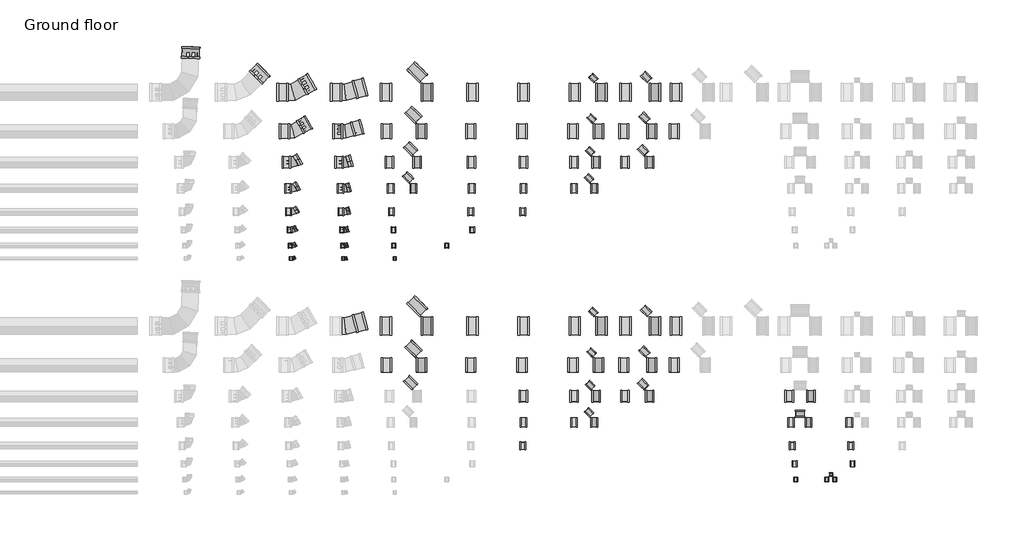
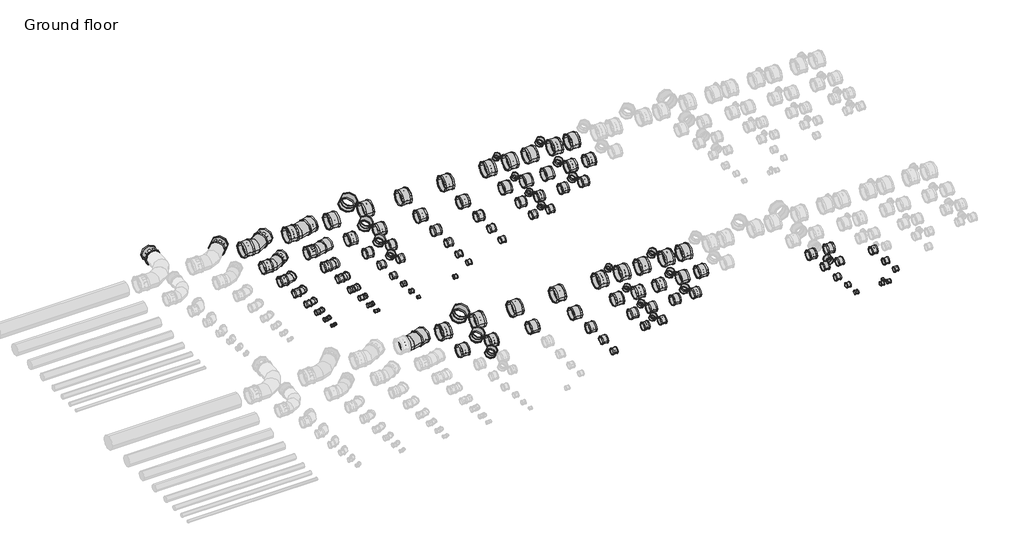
# One storey, part 3 of 10: 142 pipe fittings.
"""IFC4 building model written with IfcOpenShell, lengths in millimetres."""

from ifc_helpers import new_model, si_unit, origin, place, context, project, spatial, transform, mapped, element, save
from components import pipe_fitting_e5a81f0f, pipe_fitting_366f8f33, pipe_fitting_0ebad727, pipe_fitting_3dc9645f, pipe_fitting_b5a722ff, pipe_fitting_a818c1c7, pipe_fitting_9bc79c39, pipe_fitting_2c23b5e5, blue_6a097fc3, blue_8c50e030, blue_66bd3a30, blue_cd4b49a2, blue_58710f0b, blue_3e8714aa, blue_1fd363ef, blue_119fea42, blue_49925300, blue_168d1bee, blue_045a93d3, blue_ad261573, blue_5f6e9122, blue_fd0dfc69, orange_f85f7f18, blue_b37b0867, orange_b2441087

model = new_model("IFC4")

# Units and contexts
model_context = context("Model", 3, world=origin())
ifc_project = project(units=[si_unit("LENGTHUNIT", "METRE", prefix="MILLI")], contexts=[model_context])

# Site, building, storey
site = spatial("IfcSite", under=ifc_project)
building = spatial("IfcBuilding", under=site)
storey = spatial("IfcBuildingStorey", under=building, Name="Ground floor", Elevation=0.0)

# Pipe fittings
placement = place(None, origin())
pipe_fitting_shape = pipe_fitting_e5a81f0f(model_context)
element("IfcPipeFitting", 1, ObjectType="AWADUKT PP Union DSM : Orange No PID", at=placement, inside=storey, context=model_context, shape_type="MappedRepresentation", body=[
    mapped(pipe_fitting_shape, transform((16796.0, 11700.0, 0.0), x_axis=(1.0, 0.0, 0.0), y_axis=(0.0, 1.0, 0.0), z_axis=(0.0, 0.0, 1.0))),
])
element("IfcPipeFitting", 2, ObjectType="AWADUKT PP Union DSM : Orange No PID", at=placement, inside=storey, context=model_context, shape_type="MappedRepresentation", body=[
    mapped(pipe_fitting_shape, transform((18820.0, 11700.0, 0.0), x_axis=(1.0, 0.0, 0.0), y_axis=(0.0, 1.0, 0.0), z_axis=(0.0, 0.0, 1.0))),
])
element("IfcPipeFitting", 3, ObjectType="AWADUKT PP Union DSM : Orange No PID", at=placement, inside=storey, context=model_context, shape_type="MappedRepresentation", body=[
    mapped(pipe_fitting_shape, transform((20753.0, 11700.0, 0.0), x_axis=(1.0, 0.0, 0.0), y_axis=(0.0, 1.0, 0.0), z_axis=(0.0, 0.0, 1.0))),
])
element("IfcPipeFitting", 4, ObjectType="AWADUKT PP Union DSM : Orange No PID", at=placement, inside=storey, context=model_context, shape_type="MappedRepresentation", body=[
    mapped(pipe_fitting_shape, transform((21629.0, 11700.0, 0.0), x_axis=(-1.0, 0.0, 0.0), y_axis=(0.0, -1.0, 0.0), z_axis=(0.0, 0.0, 1.0))),
])
element("IfcPipeFitting", 5, ObjectType="AWADUKT PP Union DSM : Orange No PID", at=placement, inside=storey, context=model_context, shape_type="MappedRepresentation", body=[
    mapped(pipe_fitting_shape, transform((21420.7285348, 12120.7285348, 0.0), x_axis=(0.7071067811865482, 0.7071067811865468, 0.0), y_axis=(-0.7071067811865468, 0.7071067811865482, 0.0), z_axis=(0.0, 0.0, 1.0))),
])
element("IfcPipeFitting", 6, ObjectType="AWADUKT PP Union DSM : Orange No PID", at=placement, inside=storey, context=model_context, shape_type="MappedRepresentation", body=[
    mapped(pipe_fitting_shape, transform((23863.0, 11700.0, 0.0), x_axis=(1.0, 0.0, 0.0), y_axis=(0.0, 1.0, 0.0), z_axis=(0.0, 0.0, 1.0))),
])
element("IfcPipeFitting", 7, ObjectType="AWADUKT PP Union DSM : Orange No PID", at=placement, inside=storey, context=model_context, shape_type="MappedRepresentation", body=[
    mapped(pipe_fitting_shape, transform((25859.0, 11700.0, 0.0), x_axis=(1.0, 0.0, 0.0), y_axis=(0.0, 1.0, 0.0), z_axis=(0.0, 0.0, 1.0))),
])
element("IfcPipeFitting", 8, ObjectType="AWADUKT PP Union DSM : Orange No PID", at=placement, inside=storey, context=model_context, shape_type="MappedRepresentation", body=[
    mapped(pipe_fitting_shape, transform((27799.0, 11700.0, 0.0), x_axis=(1.0, 0.0, 0.0), y_axis=(0.0, 1.0, 0.0), z_axis=(0.0, 0.0, 1.0))),
])
element("IfcPipeFitting", 9, ObjectType="AWADUKT PP Union DSM : Orange No PID", at=placement, inside=storey, context=model_context, shape_type="MappedRepresentation", body=[
    mapped(pipe_fitting_shape, transform((28582.0, 11700.0, 0.0), x_axis=(-1.0, 0.0, 0.0), y_axis=(0.0, -1.0, 0.0), z_axis=(0.0, 0.0, 1.0))),
])
element("IfcPipeFitting", 10, ObjectType="AWADUKT PP Union DSM : Orange No PID", at=placement, inside=storey, context=model_context, shape_type="MappedRepresentation", body=[
    mapped(pipe_fitting_shape, transform((30463.1549417, 13163.1549417, 0.0), x_axis=(0.7071067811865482, 0.7071067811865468, 0.0), y_axis=(-0.7071067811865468, 0.7071067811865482, 0.0), z_axis=(0.0, 0.0, 1.0))),
])
element("IfcPipeFitting", 11, ObjectType="AWADUKT PP Union DSM : Orange No PID", at=placement, inside=storey, context=model_context, shape_type="MappedRepresentation", body=[
    mapped(pipe_fitting_shape, transform((30516.1879503, 14416.1879503, 0.0), x_axis=(0.7071067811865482, 0.7071067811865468, 0.0), y_axis=(-0.7071067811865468, 0.7071067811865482, 0.0), z_axis=(0.0, 0.0, 1.0))),
])
element("IfcPipeFitting", 12, ObjectType="AWADUKT PP Union DSM : Orange No PID", at=placement, inside=storey, context=model_context, shape_type="MappedRepresentation", body=[
    mapped(pipe_fitting_shape, transform((30579.8275606, 15979.8275606, 0.0), x_axis=(0.7071067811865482, 0.7071067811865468, 0.0), y_axis=(-0.7071067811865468, 0.7071067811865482, 0.0), z_axis=(0.0, 0.0, 1.0))),
])
pipe_fitting_2_shape = pipe_fitting_366f8f33(model_context)
element("IfcPipeFitting", 13, ObjectType="AWADUKT PP Union DSM : Blue No PID", at=placement, inside=storey, context=model_context, shape_type="MappedRepresentation", body=[
    mapped(pipe_fitting_2_shape, transform((19565.0666084, 6551.4091414, 0.0), x_axis=(0.9659258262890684, 0.2588190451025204, 0.0), y_axis=(-0.2588190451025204, 0.9659258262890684, 0.0), z_axis=(0.0, 0.0, 1.0))),
])
element("IfcPipeFitting", 14, ObjectType="AWADUKT PP Union DSM : Blue No PID", at=placement, inside=storey, context=model_context, shape_type="MappedRepresentation", body=[
    mapped(pipe_fitting_2_shape, transform((20559.0, 6400.0, 0.0), x_axis=(1.0, 0.0, 0.0), y_axis=(0.0, 1.0, 0.0), z_axis=(0.0, 0.0, 1.0))),
])
element("IfcPipeFitting", 15, ObjectType="AWADUKT PP Union DSM : Blue No PID", at=placement, inside=storey, context=model_context, shape_type="MappedRepresentation", body=[
    mapped(pipe_fitting_2_shape, transform((22155.0, 6400.0, 0.0), x_axis=(-1.0, 0.0, 0.0), y_axis=(0.0, -1.0, 0.0), z_axis=(0.0, 0.0, 1.0))),
])
element("IfcPipeFitting", 16, ObjectType="AWADUKT PP Union DSM : Blue No PID", at=placement, inside=storey, context=model_context, shape_type="MappedRepresentation", body=[
    mapped(pipe_fitting_2_shape, transform((21767.2108576, 7167.2108576, 0.0), x_axis=(0.7071067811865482, 0.7071067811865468, 0.0), y_axis=(-0.7071067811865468, 0.7071067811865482, 0.0), z_axis=(0.0, 0.0, 1.0))),
])
element("IfcPipeFitting", 17, ObjectType="AWADUKT PP Union DSM : Blue No PID", at=placement, inside=storey, context=model_context, shape_type="MappedRepresentation", body=[
    mapped(pipe_fitting_2_shape, transform((23891.0, 6400.0, 0.0), x_axis=(1.0, 0.0, 0.0), y_axis=(0.0, 1.0, 0.0), z_axis=(0.0, 0.0, 1.0))),
])
element("IfcPipeFitting", 18, ObjectType="AWADUKT PP Union DSM : Blue No PID", at=placement, inside=storey, context=model_context, shape_type="MappedRepresentation", body=[
    mapped(pipe_fitting_2_shape, transform((25863.0, 6400.0, 0.0), x_axis=(1.0, 0.0, 0.0), y_axis=(0.0, 1.0, 0.0), z_axis=(0.0, 0.0, 1.0))),
])
element("IfcPipeFitting", 19, ObjectType="AWADUKT PP Union DSM : Blue No PID", at=placement, inside=storey, context=model_context, shape_type="MappedRepresentation", body=[
    mapped(pipe_fitting_2_shape, transform((27827.0, 6400.0, 0.0), x_axis=(1.0, 0.0, 0.0), y_axis=(0.0, 1.0, 0.0), z_axis=(0.0, 0.0, 1.0))),
])
element("IfcPipeFitting", 20, ObjectType="AWADUKT PP Union DSM : Blue No PID", at=placement, inside=storey, context=model_context, shape_type="MappedRepresentation", body=[
    mapped(pipe_fitting_2_shape, transform((28860.0, 6400.0, 0.0), x_axis=(-1.0, 0.0, 0.0), y_axis=(0.0, -1.0, 0.0), z_axis=(0.0, 0.0, 1.0))),
])
element("IfcPipeFitting", 21, ObjectType="AWADUKT PP Union DSM : Blue No PID", at=placement, inside=storey, context=model_context, shape_type="MappedRepresentation", body=[
    mapped(pipe_fitting_2_shape, transform((29781.0, 6400.0, 0.0), x_axis=(1.0, 0.0, 0.0), y_axis=(0.0, 1.0, 0.0), z_axis=(0.0, 0.0, 1.0))),
])
element("IfcPipeFitting", 22, ObjectType="AWADUKT PP Union DSM : Blue No PID", at=placement, inside=storey, context=model_context, shape_type="MappedRepresentation", body=[
    mapped(pipe_fitting_2_shape, transform((30921.0, 6400.0, 0.0), x_axis=(-1.0, 0.0, 0.0), y_axis=(0.0, -1.0, 0.0), z_axis=(0.0, 0.0, 1.0))),
])
element("IfcPipeFitting", 23, ObjectType="AWADUKT PP Union DSM : Blue No PID", at=placement, inside=storey, context=model_context, shape_type="MappedRepresentation", body=[
    mapped(pipe_fitting_2_shape, transform((31721.0, 6400.0, 0.0), x_axis=(1.0, 0.0, 0.0), y_axis=(0.0, 1.0, 0.0), z_axis=(0.0, 0.0, 1.0))),
])
pipe_fitting_3_shape = pipe_fitting_0ebad727(model_context)
element("IfcPipeFitting", 24, ObjectType="AWADUKT PP Union DSM : Blue No PID", at=placement, inside=storey, context=model_context, shape_type="MappedRepresentation", body=[
    mapped(pipe_fitting_3_shape, transform((37700.0, 690.0, 0.0), x_axis=(0.0, 1.0, 0.0), y_axis=(-1.0, 0.0, 0.0), z_axis=(0.0, 0.0, 1.0))),
])
pipe_fitting_4_shape = pipe_fitting_3dc9645f(model_context)
element("IfcPipeFitting", 25, ObjectType="AWADUKT PP Union DSM : Blue No PID", at=placement, inside=storey, context=model_context, shape_type="MappedRepresentation", body=[
    mapped(pipe_fitting_4_shape, transform((36326.0, 500.0, 0.0), x_axis=(1.0, 0.0, 0.0), y_axis=(0.0, 1.0, 0.0), z_axis=(0.0, 0.0, 1.0))),
])
element("IfcPipeFitting", 26, ObjectType="AWADUKT PP Union DSM : Blue No PID", at=placement, inside=storey, context=model_context, shape_type="MappedRepresentation", body=[
    mapped(pipe_fitting_4_shape, transform((37524.0, 500.0, 0.0), x_axis=(1.0, 0.0, 0.0), y_axis=(0.0, 1.0, 0.0), z_axis=(0.0, 0.0, 1.0))),
])
element("IfcPipeFitting", 27, ObjectType="AWADUKT PP Union DSM : Blue No PID", at=placement, inside=storey, context=model_context, shape_type="MappedRepresentation", body=[
    mapped(pipe_fitting_4_shape, transform((37839.0, 500.0, 0.0), x_axis=(-1.0, 0.0, 0.0), y_axis=(0.0, -1.0, 0.0), z_axis=(0.0, 0.0, 1.0))),
])
pipe_fitting_5_shape = pipe_fitting_b5a722ff(model_context)
element("IfcPipeFitting", 28, ObjectType="AWADUKT PP Union DSM : Blue No PID", at=placement, inside=storey, context=model_context, shape_type="MappedRepresentation", body=[
    mapped(pipe_fitting_5_shape, transform((36294.1, 1100.0, 0.0), x_axis=(1.0, 0.0, 0.0), y_axis=(0.0, 1.0, 0.0), z_axis=(0.0, 0.0, 1.0))),
])
element("IfcPipeFitting", 29, ObjectType="AWADUKT PP Union DSM : Blue No PID", at=placement, inside=storey, context=model_context, shape_type="MappedRepresentation", body=[
    mapped(pipe_fitting_5_shape, transform((38516.0, 1100.0, 0.0), x_axis=(1.0, 0.0, 0.0), y_axis=(0.0, 1.0, 0.0), z_axis=(0.0, 0.0, 1.0))),
])
pipe_fitting_6_shape = pipe_fitting_a818c1c7(model_context)
element("IfcPipeFitting", 30, ObjectType="AWADUKT PP Union DSM : Blue No PID", at=placement, inside=storey, context=model_context, shape_type="MappedRepresentation", body=[
    mapped(pipe_fitting_6_shape, transform((25832.0, 1800.0, 0.0), x_axis=(1.0, 0.0, 0.0), y_axis=(0.0, 1.0, 0.0), z_axis=(0.0, 0.0, 1.0))),
])
element("IfcPipeFitting", 31, ObjectType="AWADUKT PP Union DSM : Blue No PID", at=placement, inside=storey, context=model_context, shape_type="MappedRepresentation", body=[
    mapped(pipe_fitting_6_shape, transform((28381.8376618, 3081.8376618, 0.0), x_axis=(0.7071067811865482, 0.7071067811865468, 0.0), y_axis=(-0.7071067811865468, 0.7071067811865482, 0.0), z_axis=(0.0, 0.0, 1.0))),
])
element("IfcPipeFitting", 32, ObjectType="AWADUKT PP Union DSM : Blue No PID", at=placement, inside=storey, context=model_context, shape_type="MappedRepresentation", body=[
    mapped(pipe_fitting_6_shape, transform((28424.2640687, 4124.2640687, 0.0), x_axis=(0.7071067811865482, 0.7071067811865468, 0.0), y_axis=(-0.7071067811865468, 0.7071067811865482, 0.0), z_axis=(0.0, 0.0, 1.0))),
])
element("IfcPipeFitting", 33, ObjectType="AWADUKT PP Union DSM : Blue No PID", at=placement, inside=storey, context=model_context, shape_type="MappedRepresentation", body=[
    mapped(pipe_fitting_6_shape, transform((28480.8326112, 5380.8326112, 0.0), x_axis=(0.7071067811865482, 0.7071067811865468, 0.0), y_axis=(-0.7071067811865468, 0.7071067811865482, 0.0), z_axis=(0.0, 0.0, 1.0))),
])
element("IfcPipeFitting", 34, ObjectType="AWADUKT PP Union DSM : Blue No PID", at=placement, inside=storey, context=model_context, shape_type="MappedRepresentation", body=[
    mapped(pipe_fitting_6_shape, transform((28544.4722215, 6944.4722215, 0.0), x_axis=(0.7071067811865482, 0.7071067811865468, 0.0), y_axis=(-0.7071067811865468, 0.7071067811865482, 0.0), z_axis=(0.0, 0.0, 1.0))),
])
element("IfcPipeFitting", 35, ObjectType="AWADUKT PP Union DSM : Blue No PID", at=placement, inside=storey, context=model_context, shape_type="MappedRepresentation", body=[
    mapped(pipe_fitting_6_shape, transform((36204.0, 1800.0, 0.0), x_axis=(1.0, 0.0, 0.0), y_axis=(0.0, 1.0, 0.0), z_axis=(0.0, 0.0, 1.0))),
])
element("IfcPipeFitting", 36, ObjectType="AWADUKT PP Union DSM : Blue No PID", at=placement, inside=storey, context=model_context, shape_type="MappedRepresentation", body=[
    mapped(pipe_fitting_6_shape, transform((38449.0, 1800.0, 0.0), x_axis=(1.0, 0.0, 0.0), y_axis=(0.0, 1.0, 0.0), z_axis=(0.0, 0.0, 1.0))),
])
element("IfcPipeFitting", 37, ObjectType="AWADUKT PP Union DSM : Blue No PID", at=placement, inside=storey, context=model_context, shape_type="MappedRepresentation", body=[
    mapped(pipe_fitting_shape, transform((25859.0, 2700.0, 0.0), x_axis=(1.0, 0.0, 0.0), y_axis=(0.0, 1.0, 0.0), z_axis=(0.0, 0.0, 1.0))),
])
element("IfcPipeFitting", 38, ObjectType="AWADUKT PP Union DSM : Blue No PID", at=placement, inside=storey, context=model_context, shape_type="MappedRepresentation", body=[
    mapped(pipe_fitting_shape, transform((27799.0, 2700.0, 0.0), x_axis=(1.0, 0.0, 0.0), y_axis=(0.0, 1.0, 0.0), z_axis=(0.0, 0.0, 1.0))),
])
element("IfcPipeFitting", 39, ObjectType="AWADUKT PP Union DSM : Blue No PID", at=placement, inside=storey, context=model_context, shape_type="MappedRepresentation", body=[
    mapped(pipe_fitting_shape, transform((28582.0, 2700.0, 0.0), x_axis=(-1.0, 0.0, 0.0), y_axis=(0.0, -1.0, 0.0), z_axis=(0.0, 0.0, 1.0))),
])
element("IfcPipeFitting", 40, ObjectType="AWADUKT PP Union DSM : Blue No PID", at=placement, inside=storey, context=model_context, shape_type="MappedRepresentation", body=[
    mapped(pipe_fitting_shape, transform((30463.1549417, 4163.1549417, 0.0), x_axis=(0.7071067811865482, 0.7071067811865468, 0.0), y_axis=(-0.7071067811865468, 0.7071067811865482, 0.0), z_axis=(0.0, 0.0, 1.0))),
])
element("IfcPipeFitting", 41, ObjectType="AWADUKT PP Union DSM : Blue No PID", at=placement, inside=storey, context=model_context, shape_type="MappedRepresentation", body=[
    mapped(pipe_fitting_shape, transform((30516.1879503, 5416.1879503, 0.0), x_axis=(0.7071067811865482, 0.7071067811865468, 0.0), y_axis=(-0.7071067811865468, 0.7071067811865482, 0.0), z_axis=(0.0, 0.0, 1.0))),
])
element("IfcPipeFitting", 42, ObjectType="AWADUKT PP Union DSM : Blue No PID", at=placement, inside=storey, context=model_context, shape_type="MappedRepresentation", body=[
    mapped(pipe_fitting_shape, transform((30579.8275606, 6979.8275606, 0.0), x_axis=(0.7071067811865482, 0.7071067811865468, 0.0), y_axis=(-0.7071067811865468, 0.7071067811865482, 0.0), z_axis=(0.0, 0.0, 1.0))),
])
element("IfcPipeFitting", 43, ObjectType="AWADUKT PP Union DSM : Blue No PID", at=placement, inside=storey, context=model_context, shape_type="MappedRepresentation", body=[
    mapped(pipe_fitting_shape, transform((36151.0, 2700.0, 0.0), x_axis=(1.0, 0.0, 0.0), y_axis=(0.0, 1.0, 0.0), z_axis=(0.0, 0.0, 1.0))),
])
element("IfcPipeFitting", 44, ObjectType="AWADUKT PP Union DSM : Blue No PID", at=placement, inside=storey, context=model_context, shape_type="MappedRepresentation", body=[
    mapped(pipe_fitting_shape, transform((38394.0, 2700.0, 0.0), x_axis=(1.0, 0.0, 0.0), y_axis=(0.0, 1.0, 0.0), z_axis=(0.0, 0.0, 1.0))),
])
element("IfcPipeFitting", 45, ObjectType="AWADUKT PP Union DSM : Blue No PID", at=placement, inside=storey, context=model_context, shape_type="MappedRepresentation", body=[
    mapped(pipe_fitting_shape, transform((36832.0, 2700.0, 0.0), x_axis=(-1.0, 0.0, 0.0), y_axis=(0.0, -1.0, 0.0), z_axis=(0.0, 0.0, 1.0))),
])
element("IfcPipeFitting", 46, ObjectType="AWADUKT PP Union DSM : Blue No PID", at=placement, inside=storey, context=model_context, shape_type="MappedRepresentation", body=[
    mapped(pipe_fitting_shape, transform((36500.0, 3025.0, 0.0), x_axis=(0.0, 1.0, 0.0), y_axis=(-1.0, 0.0, 0.0), z_axis=(0.0, 0.0, 1.0))),
])
pipe_fitting_7_shape = pipe_fitting_9bc79c39(model_context)
element("IfcPipeFitting", 47, ObjectType="AWADUKT PP Union DSM : Blue No PID", at=placement, inside=storey, context=model_context, shape_type="MappedRepresentation", body=[
    mapped(pipe_fitting_7_shape, transform((21519.7234842, 4219.7234842, 0.0), x_axis=(0.7071067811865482, 0.7071067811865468, 0.0), y_axis=(-0.7071067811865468, 0.7071067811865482, 0.0), z_axis=(0.0, 0.0, 1.0))),
])
element("IfcPipeFitting", 48, ObjectType="AWADUKT PP Union DSM : Blue No PID", at=placement, inside=storey, context=model_context, shape_type="MappedRepresentation", body=[
    mapped(pipe_fitting_7_shape, transform((25854.0, 3700.0, 0.0), x_axis=(1.0, 0.0, 0.0), y_axis=(0.0, 1.0, 0.0), z_axis=(0.0, 0.0, 1.0))),
])
element("IfcPipeFitting", 49, ObjectType="AWADUKT PP Union DSM : Blue No PID", at=placement, inside=storey, context=model_context, shape_type="MappedRepresentation", body=[
    mapped(pipe_fitting_7_shape, transform((27805.0, 3700.0, 0.0), x_axis=(1.0, 0.0, 0.0), y_axis=(0.0, 1.0, 0.0), z_axis=(0.0, 0.0, 1.0))),
])
element("IfcPipeFitting", 50, ObjectType="AWADUKT PP Union DSM : Blue No PID", at=placement, inside=storey, context=model_context, shape_type="MappedRepresentation", body=[
    mapped(pipe_fitting_7_shape, transform((28664.0, 3700.0, 0.0), x_axis=(-1.0, 0.0, 0.0), y_axis=(0.0, -1.0, 0.0), z_axis=(0.0, 0.0, 1.0))),
])
element("IfcPipeFitting", 51, ObjectType="AWADUKT PP Union DSM : Blue No PID", at=placement, inside=storey, context=model_context, shape_type="MappedRepresentation", body=[
    mapped(pipe_fitting_7_shape, transform((29760.0, 3700.0, 0.0), x_axis=(1.0, 0.0, 0.0), y_axis=(0.0, 1.0, 0.0), z_axis=(0.0, 0.0, 1.0))),
])
element("IfcPipeFitting", 52, ObjectType="AWADUKT PP Union DSM : Blue No PID", at=placement, inside=storey, context=model_context, shape_type="MappedRepresentation", body=[
    mapped(pipe_fitting_7_shape, transform((30714.0, 3700.0, 0.0), x_axis=(-1.0, 0.0, 0.0), y_axis=(0.0, -1.0, 0.0), z_axis=(0.0, 0.0, 1.0))),
])
element("IfcPipeFitting", 53, ObjectType="AWADUKT PP Union DSM : Blue No PID", at=placement, inside=storey, context=model_context, shape_type="MappedRepresentation", body=[
    mapped(pipe_fitting_7_shape, transform((36081.0, 3700.0, 0.0), x_axis=(1.0, 0.0, 0.0), y_axis=(0.0, 1.0, 0.0), z_axis=(0.0, 0.0, 1.0))),
])
element("IfcPipeFitting", 54, ObjectType="AWADUKT PP Union DSM : Blue No PID", at=placement, inside=storey, context=model_context, shape_type="MappedRepresentation", body=[
    mapped(pipe_fitting_7_shape, transform((36919.0, 3700.0, 0.0), x_axis=(-1.0, 0.0, 0.0), y_axis=(0.0, -1.0, 0.0), z_axis=(0.0, 0.0, 1.0))),
])
pipe_fitting_8_shape = pipe_fitting_2c23b5e5(model_context)
element("IfcPipeFitting", 55, ObjectType="AWADUKT PP Union DSM : Blue No PID", at=placement, inside=storey, context=model_context, shape_type="MappedRepresentation", body=[
    mapped(pipe_fitting_8_shape, transform((20585.0, 4900.0, 0.0), x_axis=(1.0, 0.0, 0.0), y_axis=(0.0, 1.0, 0.0), z_axis=(0.0, 0.0, 1.0))),
])
element("IfcPipeFitting", 56, ObjectType="AWADUKT PP Union DSM : Blue No PID", at=placement, inside=storey, context=model_context, shape_type="MappedRepresentation", body=[
    mapped(pipe_fitting_8_shape, transform((21941.0, 4900.0, 0.0), x_axis=(-1.0, 0.0, 0.0), y_axis=(0.0, -1.0, 0.0), z_axis=(0.0, 0.0, 1.0))),
])
element("IfcPipeFitting", 57, ObjectType="AWADUKT PP Union DSM : Blue No PID", at=placement, inside=storey, context=model_context, shape_type="MappedRepresentation", body=[
    mapped(pipe_fitting_8_shape, transform((21625.7895014, 5525.7895014, 0.0), x_axis=(0.7071067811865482, 0.7071067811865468, 0.0), y_axis=(-0.7071067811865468, 0.7071067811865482, 0.0), z_axis=(0.0, 0.0, 1.0))),
])
element("IfcPipeFitting", 58, ObjectType="AWADUKT PP Union DSM : Blue No PID", at=placement, inside=storey, context=model_context, shape_type="MappedRepresentation", body=[
    mapped(pipe_fitting_8_shape, transform((23826.0, 4900.0, 0.0), x_axis=(1.0, 0.0, 0.0), y_axis=(0.0, 1.0, 0.0), z_axis=(0.0, 0.0, 1.0))),
])
element("IfcPipeFitting", 59, ObjectType="AWADUKT PP Union DSM : Blue No PID", at=placement, inside=storey, context=model_context, shape_type="MappedRepresentation", body=[
    mapped(pipe_fitting_8_shape, transform((25798.0, 4900.0, 0.0), x_axis=(1.0, 0.0, 0.0), y_axis=(0.0, 1.0, 0.0), z_axis=(0.0, 0.0, 1.0))),
])
element("IfcPipeFitting", 60, ObjectType="AWADUKT PP Union DSM : Blue No PID", at=placement, inside=storey, context=model_context, shape_type="MappedRepresentation", body=[
    mapped(pipe_fitting_8_shape, transform((27762.0, 4900.0, 0.0), x_axis=(1.0, 0.0, 0.0), y_axis=(0.0, 1.0, 0.0), z_axis=(0.0, 0.0, 1.0))),
])
element("IfcPipeFitting", 61, ObjectType="AWADUKT PP Union DSM : Blue No PID", at=placement, inside=storey, context=model_context, shape_type="MappedRepresentation", body=[
    mapped(pipe_fitting_8_shape, transform((28751.0, 4900.0, 0.0), x_axis=(-1.0, 0.0, 0.0), y_axis=(0.0, -1.0, 0.0), z_axis=(0.0, 0.0, 1.0))),
])
element("IfcPipeFitting", 62, ObjectType="AWADUKT PP Union DSM : Blue No PID", at=placement, inside=storey, context=model_context, shape_type="MappedRepresentation", body=[
    mapped(pipe_fitting_8_shape, transform((29716.0, 4900.0, 0.0), x_axis=(1.0, 0.0, 0.0), y_axis=(0.0, 1.0, 0.0), z_axis=(0.0, 0.0, 1.0))),
])
element("IfcPipeFitting", 63, ObjectType="AWADUKT PP Union DSM : Blue No PID", at=placement, inside=storey, context=model_context, shape_type="MappedRepresentation", body=[
    mapped(pipe_fitting_8_shape, transform((30801.0, 4900.0, 0.0), x_axis=(-1.0, 0.0, 0.0), y_axis=(0.0, -1.0, 0.0), z_axis=(0.0, 0.0, 1.0))),
])
element("IfcPipeFitting", 64, ObjectType="AWADUKT PP Union DSM : Blue No PID", at=placement, inside=storey, context=model_context, shape_type="MappedRepresentation", body=[
    mapped(pipe_fitting_8_shape, transform((31656.0, 4900.0, 0.0), x_axis=(1.0, 0.0, 0.0), y_axis=(0.0, 1.0, 0.0), z_axis=(0.0, 0.0, 1.0))),
])
element("IfcPipeFitting", 65, ObjectType="AWADUKT PP Union DSM : Orange No PID", at=placement, inside=storey, context=model_context, shape_type="MappedRepresentation", body=[
    mapped(pipe_fitting_3_shape, transform((16918.0, 9000.0, 0.0), x_axis=(1.0, 0.0, 0.0), y_axis=(0.0, 1.0, 0.0), z_axis=(0.0, 0.0, 1.0))),
])
element("IfcPipeFitting", 66, ObjectType="AWADUKT PP Union DSM : Orange No PID", at=placement, inside=storey, context=model_context, shape_type="MappedRepresentation", body=[
    mapped(pipe_fitting_3_shape, transform((18927.0, 9000.0, 0.0), x_axis=(1.0, 0.0, 0.0), y_axis=(0.0, 1.0, 0.0), z_axis=(0.0, 0.0, 1.0))),
])
element("IfcPipeFitting", 67, ObjectType="AWADUKT PP Union DSM : Orange No PID", at=placement, inside=storey, context=model_context, shape_type="MappedRepresentation", body=[
    mapped(pipe_fitting_3_shape, transform((20908.0, 9000.0, 0.0), x_axis=(1.0, 0.0, 0.0), y_axis=(0.0, 1.0, 0.0), z_axis=(0.0, 0.0, 1.0))),
])
element("IfcPipeFitting", 68, ObjectType="AWADUKT PP Union DSM : Orange No PID", at=placement, inside=storey, context=model_context, shape_type="MappedRepresentation", body=[
    mapped(pipe_fitting_4_shape, transform((16890.0, 9500.0, 0.0), x_axis=(1.0, 0.0, 0.0), y_axis=(0.0, 1.0, 0.0), z_axis=(0.0, 0.0, 1.0))),
])
element("IfcPipeFitting", 69, ObjectType="AWADUKT PP Union DSM : Orange No PID", at=placement, inside=storey, context=model_context, shape_type="MappedRepresentation", body=[
    mapped(pipe_fitting_4_shape, transform((18902.0, 9500.0, 0.0), x_axis=(1.0, 0.0, 0.0), y_axis=(0.0, 1.0, 0.0), z_axis=(0.0, 0.0, 1.0))),
])
element("IfcPipeFitting", 70, ObjectType="AWADUKT PP Union DSM : Orange No PID", at=placement, inside=storey, context=model_context, shape_type="MappedRepresentation", body=[
    mapped(pipe_fitting_4_shape, transform((20872.0, 9500.0, 0.0), x_axis=(1.0, 0.0, 0.0), y_axis=(0.0, 1.0, 0.0), z_axis=(0.0, 0.0, 1.0))),
])
element("IfcPipeFitting", 71, ObjectType="AWADUKT PP Union DSM : Orange No PID", at=placement, inside=storey, context=model_context, shape_type="MappedRepresentation", body=[
    mapped(pipe_fitting_4_shape, transform((22905.0, 9500.0, 0.0), x_axis=(1.0, 0.0, 0.0), y_axis=(0.0, 1.0, 0.0), z_axis=(0.0, 0.0, 1.0))),
])
element("IfcPipeFitting", 72, ObjectType="AWADUKT PP Union DSM : Orange No PID", at=placement, inside=storey, context=model_context, shape_type="MappedRepresentation", body=[
    mapped(pipe_fitting_5_shape, transform((16863.5, 10100.0, 0.0), x_axis=(1.0, 0.0, 0.0), y_axis=(0.0, 1.0, 0.0), z_axis=(0.0, 0.0, 1.0))),
])
element("IfcPipeFitting", 73, ObjectType="AWADUKT PP Union DSM : Orange No PID", at=placement, inside=storey, context=model_context, shape_type="MappedRepresentation", body=[
    mapped(pipe_fitting_5_shape, transform((18878.5, 10100.0, 0.0), x_axis=(1.0, 0.0, 0.0), y_axis=(0.0, 1.0, 0.0), z_axis=(0.0, 0.0, 1.0))),
])
element("IfcPipeFitting", 74, ObjectType="AWADUKT PP Union DSM : Orange No PID", at=placement, inside=storey, context=model_context, shape_type="MappedRepresentation", body=[
    mapped(pipe_fitting_5_shape, transform((20855.1, 10100.0, 0.0), x_axis=(1.0, 0.0, 0.0), y_axis=(0.0, 1.0, 0.0), z_axis=(0.0, 0.0, 1.0))),
])
element("IfcPipeFitting", 75, ObjectType="AWADUKT PP Union DSM : Orange No PID", at=placement, inside=storey, context=model_context, shape_type="MappedRepresentation", body=[
    mapped(pipe_fitting_5_shape, transform((23884.4, 10100.0, 0.0), x_axis=(1.0, 0.0, 0.0), y_axis=(0.0, 1.0, 0.0), z_axis=(0.0, 0.0, 1.0))),
])
element("IfcPipeFitting", 76, ObjectType="AWADUKT PP Union DSM : Orange No PID", at=placement, inside=storey, context=model_context, shape_type="MappedRepresentation", body=[
    mapped(pipe_fitting_6_shape, transform((16817.0, 10800.0, 0.0), x_axis=(1.0, 0.0, 0.0), y_axis=(0.0, 1.0, 0.0), z_axis=(0.0, 0.0, 1.0))),
])
element("IfcPipeFitting", 77, ObjectType="AWADUKT PP Union DSM : Orange No PID", at=placement, inside=storey, context=model_context, shape_type="MappedRepresentation", body=[
    mapped(pipe_fitting_6_shape, transform((18835.0, 10800.0, 0.0), x_axis=(1.0, 0.0, 0.0), y_axis=(0.0, 1.0, 0.0), z_axis=(0.0, 0.0, 1.0))),
])
element("IfcPipeFitting", 78, ObjectType="AWADUKT PP Union DSM : Orange No PID", at=placement, inside=storey, context=model_context, shape_type="MappedRepresentation", body=[
    mapped(pipe_fitting_6_shape, transform((20777.0, 10800.0, 0.0), x_axis=(1.0, 0.0, 0.0), y_axis=(0.0, 1.0, 0.0), z_axis=(0.0, 0.0, 1.0))),
])
element("IfcPipeFitting", 79, ObjectType="AWADUKT PP Union DSM : Orange No PID", at=placement, inside=storey, context=model_context, shape_type="MappedRepresentation", body=[
    mapped(pipe_fitting_6_shape, transform((23832.0, 10800.0, 0.0), x_axis=(1.0, 0.0, 0.0), y_axis=(0.0, 1.0, 0.0), z_axis=(0.0, 0.0, 1.0))),
])
element("IfcPipeFitting", 80, ObjectType="AWADUKT PP Union DSM : Orange No PID", at=placement, inside=storey, context=model_context, shape_type="MappedRepresentation", body=[
    mapped(pipe_fitting_6_shape, transform((25832.0, 10800.0, 0.0), x_axis=(1.0, 0.0, 0.0), y_axis=(0.0, 1.0, 0.0), z_axis=(0.0, 0.0, 1.0))),
])
element("IfcPipeFitting", 81, ObjectType="AWADUKT PP Union DSM : Orange No PID", at=placement, inside=storey, context=model_context, shape_type="MappedRepresentation", body=[
    mapped(pipe_fitting_6_shape, transform((28381.8376618, 12081.8376618, 0.0), x_axis=(0.7071067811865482, 0.7071067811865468, 0.0), y_axis=(-0.7071067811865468, 0.7071067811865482, 0.0), z_axis=(0.0, 0.0, 1.0))),
])
element("IfcPipeFitting", 82, ObjectType="AWADUKT PP Union DSM : Orange No PID", at=placement, inside=storey, context=model_context, shape_type="MappedRepresentation", body=[
    mapped(pipe_fitting_6_shape, transform((28424.2640687, 13124.2640687, 0.0), x_axis=(0.7071067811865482, 0.7071067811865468, 0.0), y_axis=(-0.7071067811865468, 0.7071067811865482, 0.0), z_axis=(0.0, 0.0, 1.0))),
])
element("IfcPipeFitting", 83, ObjectType="AWADUKT PP Union DSM : Orange No PID", at=placement, inside=storey, context=model_context, shape_type="MappedRepresentation", body=[
    mapped(pipe_fitting_6_shape, transform((28480.8326112, 14380.8326112, 0.0), x_axis=(0.7071067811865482, 0.7071067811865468, 0.0), y_axis=(-0.7071067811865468, 0.7071067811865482, 0.0), z_axis=(0.0, 0.0, 1.0))),
])
element("IfcPipeFitting", 84, ObjectType="AWADUKT PP Union DSM : Orange No PID", at=placement, inside=storey, context=model_context, shape_type="MappedRepresentation", body=[
    mapped(pipe_fitting_6_shape, transform((28544.4722215, 15944.4722215, 0.0), x_axis=(0.7071067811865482, 0.7071067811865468, 0.0), y_axis=(-0.7071067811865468, 0.7071067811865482, 0.0), z_axis=(0.0, 0.0, 1.0))),
])
element("IfcPipeFitting", 85, ObjectType="AWADUKT PP Union DSM : Orange No PID", at=placement, inside=storey, context=model_context, shape_type="MappedRepresentation", body=[
    mapped(pipe_fitting_7_shape, transform((16738.0, 12700.0, 0.0), x_axis=(1.0, 0.0, 0.0), y_axis=(0.0, 1.0, 0.0), z_axis=(0.0, 0.0, 1.0))),
])
element("IfcPipeFitting", 86, ObjectType="AWADUKT PP Union DSM : Orange No PID", at=placement, inside=storey, context=model_context, shape_type="MappedRepresentation", body=[
    mapped(pipe_fitting_7_shape, transform((18764.4, 12700.0, 0.0), x_axis=(1.0, 0.0, 0.0), y_axis=(0.0, 1.0, 0.0), z_axis=(0.0, 0.0, 1.0))),
])
element("IfcPipeFitting", 87, ObjectType="AWADUKT PP Union DSM : Orange No PID", at=placement, inside=storey, context=model_context, shape_type="MappedRepresentation", body=[
    mapped(pipe_fitting_7_shape, transform((20698.0, 12700.0, 0.0), x_axis=(1.0, 0.0, 0.0), y_axis=(0.0, 1.0, 0.0), z_axis=(0.0, 0.0, 1.0))),
])
element("IfcPipeFitting", 88, ObjectType="AWADUKT PP Union DSM : Orange No PID", at=placement, inside=storey, context=model_context, shape_type="MappedRepresentation", body=[
    mapped(pipe_fitting_7_shape, transform((21777.0, 12700.0, 0.0), x_axis=(-1.0, 0.0, 0.0), y_axis=(0.0, -1.0, 0.0), z_axis=(0.0, 0.0, 1.0))),
])
element("IfcPipeFitting", 89, ObjectType="AWADUKT PP Union DSM : Orange No PID", at=placement, inside=storey, context=model_context, shape_type="MappedRepresentation", body=[
    mapped(pipe_fitting_7_shape, transform((21519.7234842, 13219.7234842, 0.0), x_axis=(0.7071067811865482, 0.7071067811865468, 0.0), y_axis=(-0.7071067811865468, 0.7071067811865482, 0.0), z_axis=(0.0, 0.0, 1.0))),
])
element("IfcPipeFitting", 90, ObjectType="AWADUKT PP Union DSM : Orange No PID", at=placement, inside=storey, context=model_context, shape_type="MappedRepresentation", body=[
    mapped(pipe_fitting_7_shape, transform((23854.0, 12700.0, 0.0), x_axis=(1.0, 0.0, 0.0), y_axis=(0.0, 1.0, 0.0), z_axis=(0.0, 0.0, 1.0))),
])
element("IfcPipeFitting", 91, ObjectType="AWADUKT PP Union DSM : Orange No PID", at=placement, inside=storey, context=model_context, shape_type="MappedRepresentation", body=[
    mapped(pipe_fitting_7_shape, transform((25854.0, 12700.0, 0.0), x_axis=(1.0, 0.0, 0.0), y_axis=(0.0, 1.0, 0.0), z_axis=(0.0, 0.0, 1.0))),
])
element("IfcPipeFitting", 92, ObjectType="AWADUKT PP Union DSM : Orange No PID", at=placement, inside=storey, context=model_context, shape_type="MappedRepresentation", body=[
    mapped(pipe_fitting_7_shape, transform((27805.0, 12700.0, 0.0), x_axis=(1.0, 0.0, 0.0), y_axis=(0.0, 1.0, 0.0), z_axis=(0.0, 0.0, 1.0))),
])
element("IfcPipeFitting", 93, ObjectType="AWADUKT PP Union DSM : Orange No PID", at=placement, inside=storey, context=model_context, shape_type="MappedRepresentation", body=[
    mapped(pipe_fitting_7_shape, transform((28664.0, 12700.0, 0.0), x_axis=(-1.0, 0.0, 0.0), y_axis=(0.0, -1.0, 0.0), z_axis=(0.0, 0.0, 1.0))),
])
element("IfcPipeFitting", 94, ObjectType="AWADUKT PP Union DSM : Orange No PID", at=placement, inside=storey, context=model_context, shape_type="MappedRepresentation", body=[
    mapped(pipe_fitting_7_shape, transform((29760.0, 12700.0, 0.0), x_axis=(1.0, 0.0, 0.0), y_axis=(0.0, 1.0, 0.0), z_axis=(0.0, 0.0, 1.0))),
])
element("IfcPipeFitting", 95, ObjectType="AWADUKT PP Union DSM : Orange No PID", at=placement, inside=storey, context=model_context, shape_type="MappedRepresentation", body=[
    mapped(pipe_fitting_7_shape, transform((30714.0, 12700.0, 0.0), x_axis=(-1.0, 0.0, 0.0), y_axis=(0.0, -1.0, 0.0), z_axis=(0.0, 0.0, 1.0))),
])
element("IfcPipeFitting", 96, ObjectType="AWADUKT PP Union DSM : Orange No PID", at=placement, inside=storey, context=model_context, shape_type="MappedRepresentation", body=[
    mapped(pipe_fitting_8_shape, transform((17429.5486003, 14148.0, 0.0), x_axis=(0.8660254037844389, 0.49999999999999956, 0.0), y_axis=(-0.49999999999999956, 0.8660254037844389, 0.0), z_axis=(0.0, 0.0, 1.0))),
])
element("IfcPipeFitting", 97, ObjectType="AWADUKT PP Union DSM : Orange No PID", at=placement, inside=storey, context=model_context, shape_type="MappedRepresentation", body=[
    mapped(pipe_fitting_8_shape, transform((16659.0, 13900.0, 0.0), x_axis=(1.0, 0.0, 0.0), y_axis=(0.0, 1.0, 0.0), z_axis=(0.0, 0.0, 1.0))),
])
element("IfcPipeFitting", 98, ObjectType="AWADUKT PP Union DSM : Orange No PID", at=placement, inside=storey, context=model_context, shape_type="MappedRepresentation", body=[
    mapped(pipe_fitting_8_shape, transform((19458.8147675, 14022.9390464, 0.0), x_axis=(0.9659258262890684, 0.2588190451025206, 0.0), y_axis=(-0.2588190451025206, 0.9659258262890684, 0.0), z_axis=(0.0, 0.0, 1.0))),
])
element("IfcPipeFitting", 99, ObjectType="AWADUKT PP Union DSM : Orange No PID", at=placement, inside=storey, context=model_context, shape_type="MappedRepresentation", body=[
    mapped(pipe_fitting_8_shape, transform((18707.0, 13900.0, 0.0), x_axis=(1.0, 0.0, 0.0), y_axis=(0.0, 1.0, 0.0), z_axis=(0.0, 0.0, 1.0))),
])
element("IfcPipeFitting", 100, ObjectType="AWADUKT PP Union DSM : Orange No PID", at=placement, inside=storey, context=model_context, shape_type="MappedRepresentation", body=[
    mapped(pipe_fitting_8_shape, transform((20585.0, 13900.0, 0.0), x_axis=(1.0, 0.0, 0.0), y_axis=(0.0, 1.0, 0.0), z_axis=(0.0, 0.0, 1.0))),
])
element("IfcPipeFitting", 101, ObjectType="AWADUKT PP Union DSM : Orange No PID", at=placement, inside=storey, context=model_context, shape_type="MappedRepresentation", body=[
    mapped(pipe_fitting_8_shape, transform((21941.0, 13900.0, 0.0), x_axis=(-1.0, 0.0, 0.0), y_axis=(0.0, -1.0, 0.0), z_axis=(0.0, 0.0, 1.0))),
])
element("IfcPipeFitting", 102, ObjectType="AWADUKT PP Union DSM : Orange No PID", at=placement, inside=storey, context=model_context, shape_type="MappedRepresentation", body=[
    mapped(pipe_fitting_8_shape, transform((21625.7895014, 14525.7895014, 0.0), x_axis=(0.7071067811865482, 0.7071067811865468, 0.0), y_axis=(-0.7071067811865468, 0.7071067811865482, 0.0), z_axis=(0.0, 0.0, 1.0))),
])
element("IfcPipeFitting", 103, ObjectType="AWADUKT PP Union DSM : Orange No PID", at=placement, inside=storey, context=model_context, shape_type="MappedRepresentation", body=[
    mapped(pipe_fitting_8_shape, transform((23826.0, 13900.0, 0.0), x_axis=(1.0, 0.0, 0.0), y_axis=(0.0, 1.0, 0.0), z_axis=(0.0, 0.0, 1.0))),
])
element("IfcPipeFitting", 104, ObjectType="AWADUKT PP Union DSM : Orange No PID", at=placement, inside=storey, context=model_context, shape_type="MappedRepresentation", body=[
    mapped(pipe_fitting_8_shape, transform((25798.0, 13900.0, 0.0), x_axis=(1.0, 0.0, 0.0), y_axis=(0.0, 1.0, 0.0), z_axis=(0.0, 0.0, 1.0))),
])
element("IfcPipeFitting", 105, ObjectType="AWADUKT PP Union DSM : Orange No PID", at=placement, inside=storey, context=model_context, shape_type="MappedRepresentation", body=[
    mapped(pipe_fitting_8_shape, transform((27762.0, 13900.0, 0.0), x_axis=(1.0, 0.0, 0.0), y_axis=(0.0, 1.0, 0.0), z_axis=(0.0, 0.0, 1.0))),
])
element("IfcPipeFitting", 106, ObjectType="AWADUKT PP Union DSM : Orange No PID", at=placement, inside=storey, context=model_context, shape_type="MappedRepresentation", body=[
    mapped(pipe_fitting_8_shape, transform((28751.0, 13900.0, 0.0), x_axis=(-1.0, 0.0, 0.0), y_axis=(0.0, -1.0, 0.0), z_axis=(0.0, 0.0, 1.0))),
])
element("IfcPipeFitting", 107, ObjectType="AWADUKT PP Union DSM : Orange No PID", at=placement, inside=storey, context=model_context, shape_type="MappedRepresentation", body=[
    mapped(pipe_fitting_8_shape, transform((29716.0, 13900.0, 0.0), x_axis=(1.0, 0.0, 0.0), y_axis=(0.0, 1.0, 0.0), z_axis=(0.0, 0.0, 1.0))),
])
element("IfcPipeFitting", 108, ObjectType="AWADUKT PP Union DSM : Orange No PID", at=placement, inside=storey, context=model_context, shape_type="MappedRepresentation", body=[
    mapped(pipe_fitting_8_shape, transform((30801.0, 13900.0, 0.0), x_axis=(-1.0, 0.0, 0.0), y_axis=(0.0, -1.0, 0.0), z_axis=(0.0, 0.0, 1.0))),
])
element("IfcPipeFitting", 109, ObjectType="AWADUKT PP Union DSM : Orange No PID", at=placement, inside=storey, context=model_context, shape_type="MappedRepresentation", body=[
    mapped(pipe_fitting_8_shape, transform((31656.0, 13900.0, 0.0), x_axis=(1.0, 0.0, 0.0), y_axis=(0.0, 1.0, 0.0), z_axis=(0.0, 0.0, 1.0))),
])
element("IfcPipeFitting", 110, ObjectType="AWADUKT PP Union DSM : Orange No PID", at=placement, inside=storey, context=model_context, shape_type="MappedRepresentation", body=[
    mapped(pipe_fitting_2_shape, transform((13055.6434717, 16917.480166, 0.0), x_axis=(0.036643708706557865, 0.9993283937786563, 0.0), y_axis=(-0.9993283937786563, 0.036643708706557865, 0.0), z_axis=(0.0, 0.0, 1.0))),
])
element("IfcPipeFitting", 111, ObjectType="AWADUKT PP Union DSM : Orange No PID", at=placement, inside=storey, context=model_context, shape_type="MappedRepresentation", body=[
    mapped(pipe_fitting_2_shape, transform((15709.9352083, 16109.9352083, 0.0), x_axis=(0.7071067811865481, 0.707106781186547, 0.0), y_axis=(-0.707106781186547, 0.7071067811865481, 0.0), z_axis=(0.0, 0.0, 1.0))),
])
element("IfcPipeFitting", 112, ObjectType="AWADUKT PP Union DSM : Orange No PID", at=placement, inside=storey, context=model_context, shape_type="MappedRepresentation", body=[
    mapped(pipe_fitting_2_shape, transform((17534.3376741, 15708.5, 0.0), x_axis=(0.8660254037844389, 0.49999999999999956, 0.0), y_axis=(-0.49999999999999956, 0.8660254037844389, 0.0), z_axis=(0.0, 0.0, 1.0))),
])
element("IfcPipeFitting", 113, ObjectType="AWADUKT PP Union DSM : Orange No PID", at=placement, inside=storey, context=model_context, shape_type="MappedRepresentation", body=[
    mapped(pipe_fitting_2_shape, transform((16590.0, 15400.0, 0.0), x_axis=(1.0, 0.0, 0.0), y_axis=(0.0, 1.0, 0.0), z_axis=(0.0, 0.0, 1.0))),
])
element("IfcPipeFitting", 114, ObjectType="AWADUKT PP Union DSM : Orange No PID", at=placement, inside=storey, context=model_context, shape_type="MappedRepresentation", body=[
    mapped(pipe_fitting_2_shape, transform((19565.0666084, 15551.4091414, 0.0), x_axis=(0.9659258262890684, 0.2588190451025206, 0.0), y_axis=(-0.2588190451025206, 0.9659258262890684, 0.0), z_axis=(0.0, 0.0, 1.0))),
])
element("IfcPipeFitting", 115, ObjectType="AWADUKT PP Union DSM : Orange No PID", at=placement, inside=storey, context=model_context, shape_type="MappedRepresentation", body=[
    mapped(pipe_fitting_2_shape, transform((18648.0, 15400.0, 0.0), x_axis=(1.0, 0.0, 0.0), y_axis=(0.0, 1.0, 0.0), z_axis=(0.0, 0.0, 1.0))),
])
element("IfcPipeFitting", 116, ObjectType="AWADUKT PP Union DSM : Orange No PID", at=placement, inside=storey, context=model_context, shape_type="MappedRepresentation", body=[
    mapped(pipe_fitting_2_shape, transform((20559.0, 15400.0, 0.0), x_axis=(1.0, 0.0, 0.0), y_axis=(0.0, 1.0, 0.0), z_axis=(0.0, 0.0, 1.0))),
])
element("IfcPipeFitting", 117, ObjectType="AWADUKT PP Union DSM : Orange No PID", at=placement, inside=storey, context=model_context, shape_type="MappedRepresentation", body=[
    mapped(pipe_fitting_2_shape, transform((22155.0, 15400.0, 0.0), x_axis=(-1.0, 0.0, 0.0), y_axis=(0.0, -1.0, 0.0), z_axis=(0.0, 0.0, 1.0))),
])
element("IfcPipeFitting", 118, ObjectType="AWADUKT PP Union DSM : Orange No PID", at=placement, inside=storey, context=model_context, shape_type="MappedRepresentation", body=[
    mapped(pipe_fitting_2_shape, transform((21767.2108576, 16167.2108576, 0.0), x_axis=(0.7071067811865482, 0.7071067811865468, 0.0), y_axis=(-0.7071067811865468, 0.7071067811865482, 0.0), z_axis=(0.0, 0.0, 1.0))),
])
element("IfcPipeFitting", 119, ObjectType="AWADUKT PP Union DSM : Orange No PID", at=placement, inside=storey, context=model_context, shape_type="MappedRepresentation", body=[
    mapped(pipe_fitting_2_shape, transform((23891.0, 15400.0, 0.0), x_axis=(1.0, 0.0, 0.0), y_axis=(0.0, 1.0, 0.0), z_axis=(0.0, 0.0, 1.0))),
])
element("IfcPipeFitting", 120, ObjectType="AWADUKT PP Union DSM : Orange No PID", at=placement, inside=storey, context=model_context, shape_type="MappedRepresentation", body=[
    mapped(pipe_fitting_2_shape, transform((25863.0, 15400.0, 0.0), x_axis=(1.0, 0.0, 0.0), y_axis=(0.0, 1.0, 0.0), z_axis=(0.0, 0.0, 1.0))),
])
element("IfcPipeFitting", 121, ObjectType="AWADUKT PP Union DSM : Orange No PID", at=placement, inside=storey, context=model_context, shape_type="MappedRepresentation", body=[
    mapped(pipe_fitting_2_shape, transform((27827.0, 15400.0, 0.0), x_axis=(1.0, 0.0, 0.0), y_axis=(0.0, 1.0, 0.0), z_axis=(0.0, 0.0, 1.0))),
])
element("IfcPipeFitting", 122, ObjectType="AWADUKT PP Union DSM : Orange No PID", at=placement, inside=storey, context=model_context, shape_type="MappedRepresentation", body=[
    mapped(pipe_fitting_2_shape, transform((28860.0, 15400.0, 0.0), x_axis=(-1.0, 0.0, 0.0), y_axis=(0.0, -1.0, 0.0), z_axis=(0.0, 0.0, 1.0))),
])
element("IfcPipeFitting", 123, ObjectType="AWADUKT PP Union DSM : Orange No PID", at=placement, inside=storey, context=model_context, shape_type="MappedRepresentation", body=[
    mapped(pipe_fitting_2_shape, transform((29781.0, 15400.0, 0.0), x_axis=(1.0, 0.0, 0.0), y_axis=(0.0, 1.0, 0.0), z_axis=(0.0, 0.0, 1.0))),
])
element("IfcPipeFitting", 124, ObjectType="AWADUKT PP Union DSM : Orange No PID", at=placement, inside=storey, context=model_context, shape_type="MappedRepresentation", body=[
    mapped(pipe_fitting_2_shape, transform((30921.0, 15400.0, 0.0), x_axis=(-1.0, 0.0, 0.0), y_axis=(0.0, -1.0, 0.0), z_axis=(0.0, 0.0, 1.0))),
])
element("IfcPipeFitting", 125, ObjectType="AWADUKT PP Union DSM : Orange No PID", at=placement, inside=storey, context=model_context, shape_type="MappedRepresentation", body=[
    mapped(pipe_fitting_2_shape, transform((31721.0, 15400.0, 0.0), x_axis=(1.0, 0.0, 0.0), y_axis=(0.0, 1.0, 0.0), z_axis=(0.0, 0.0, 1.0))),
])
blue_shape = blue_6a097fc3(model_context)
element("IfcPipeFitting", 126, ObjectType="AWADUKT PP SN10 SBend : Blue", at=placement, inside=storey, context=model_context, shape_type="MappedRepresentation", body=[
    mapped(blue_shape, transform((19000.0, 6400.0, 0.0), x_axis=(1.0, 0.0, 0.0), y_axis=(0.0, 1.0, 0.0), z_axis=(0.0, 0.0, 1.0))),
])
blue_2_shape = blue_8c50e030(model_context)
element("IfcPipeFitting", 127, ObjectType="AWADUKT PP SN10 Bend : Orange", at=placement, inside=storey, context=model_context, shape_type="MappedRepresentation", body=[
    mapped(blue_2_shape, transform((17000.0, 9000.0, 0.0), x_axis=(1.0, 0.0, 0.0), y_axis=(0.0, 1.0, 0.0), z_axis=(0.0, 0.0, 1.0))),
])
blue_3_shape = blue_66bd3a30(model_context)
element("IfcPipeFitting", 128, ObjectType="AWADUKT PP SN10 Bend : Orange", at=placement, inside=storey, context=model_context, shape_type="MappedRepresentation", body=[
    mapped(blue_3_shape, transform((17000.0, 9500.0, 0.0), x_axis=(1.0, 0.0, 0.0), y_axis=(0.0, 1.0, 0.0), z_axis=(0.0, 0.0, 1.0))),
])
blue_4_shape = blue_cd4b49a2(model_context)
element("IfcPipeFitting", 129, ObjectType="AWADUKT PP SN10 Bend : Orange", at=placement, inside=storey, context=model_context, shape_type="MappedRepresentation", body=[
    mapped(blue_4_shape, transform((17000.0, 10100.0, 0.0), x_axis=(1.0, 0.0, 0.0), y_axis=(0.0, 1.0, 0.0), z_axis=(0.0, 0.0, 1.0))),
])
blue_5_shape = blue_58710f0b(model_context)
element("IfcPipeFitting", 130, ObjectType="AWADUKT PP SN10 Bend : Orange", at=placement, inside=storey, context=model_context, shape_type="MappedRepresentation", body=[
    mapped(blue_5_shape, transform((17000.0, 10800.0, 0.0), x_axis=(1.0, 0.0, 0.0), y_axis=(0.0, 1.0, 0.0), z_axis=(0.0, 0.0, 1.0))),
])
blue_6_shape = blue_3e8714aa(model_context)
element("IfcPipeFitting", 131, ObjectType="AWADUKT PP SN10 Bend : Orange", at=placement, inside=storey, context=model_context, shape_type="MappedRepresentation", body=[
    mapped(blue_6_shape, transform((17000.0, 11700.0, 0.0), x_axis=(1.0, 0.0, 0.0), y_axis=(0.0, 1.0, 0.0), z_axis=(0.0, 0.0, 1.0))),
])
blue_7_shape = blue_1fd363ef(model_context)
element("IfcPipeFitting", 132, ObjectType="AWADUKT PP SN10 Bend : Orange", at=placement, inside=storey, context=model_context, shape_type="MappedRepresentation", body=[
    mapped(blue_7_shape, transform((17000.0, 12700.0, 0.0), x_axis=(1.0, 0.0, 0.0), y_axis=(0.0, 1.0, 0.0), z_axis=(0.0, 0.0, 1.0))),
])
blue_8_shape = blue_119fea42(model_context)
element("IfcPipeFitting", 133, ObjectType="AWADUKT PP SN10 Bend : Orange", at=placement, inside=storey, context=model_context, shape_type="MappedRepresentation", body=[
    mapped(blue_8_shape, transform((19000.0, 9000.0, 0.0), x_axis=(1.0, 0.0, 0.0), y_axis=(0.0, 1.0, 0.0), z_axis=(0.0, 0.0, 1.0))),
])
blue_9_shape = blue_49925300(model_context)
element("IfcPipeFitting", 134, ObjectType="AWADUKT PP SN10 Bend : Orange", at=placement, inside=storey, context=model_context, shape_type="MappedRepresentation", body=[
    mapped(blue_9_shape, transform((19000.0, 9500.0, 0.0), x_axis=(1.0, 0.0, 0.0), y_axis=(0.0, 1.0, 0.0), z_axis=(0.0, 0.0, 1.0))),
])
blue_10_shape = blue_168d1bee(model_context)
element("IfcPipeFitting", 135, ObjectType="AWADUKT PP SN10 Bend : Orange", at=placement, inside=storey, context=model_context, shape_type="MappedRepresentation", body=[
    mapped(blue_10_shape, transform((19000.0, 10100.0, 0.0), x_axis=(1.0, 0.0, 0.0), y_axis=(0.0, 1.0, 0.0), z_axis=(0.0, 0.0, 1.0))),
])
blue_11_shape = blue_045a93d3(model_context)
element("IfcPipeFitting", 136, ObjectType="AWADUKT PP SN10 Bend : Orange", at=placement, inside=storey, context=model_context, shape_type="MappedRepresentation", body=[
    mapped(blue_11_shape, transform((19000.0, 10800.0, 0.0), x_axis=(1.0, 0.0, 0.0), y_axis=(0.0, 1.0, 0.0), z_axis=(0.0, 0.0, 1.0))),
])
blue_12_shape = blue_ad261573(model_context)
element("IfcPipeFitting", 137, ObjectType="AWADUKT PP SN10 Bend : Orange", at=placement, inside=storey, context=model_context, shape_type="MappedRepresentation", body=[
    mapped(blue_12_shape, transform((19000.0, 11700.0, 0.0), x_axis=(1.0, 0.0, 0.0), y_axis=(0.0, 1.0, 0.0), z_axis=(0.0, 0.0, 1.0))),
])
blue_13_shape = blue_5f6e9122(model_context)
element("IfcPipeFitting", 138, ObjectType="AWADUKT PP SN10 Bend : Orange", at=placement, inside=storey, context=model_context, shape_type="MappedRepresentation", body=[
    mapped(blue_13_shape, transform((19000.0, 12700.0, 0.0), x_axis=(1.0, 0.0, 0.0), y_axis=(0.0, 1.0, 0.0), z_axis=(0.0, 0.0, 1.0))),
])
blue_14_shape = blue_fd0dfc69(model_context)
element("IfcPipeFitting", 139, ObjectType="AWADUKT PP SN10 SBend : Orange", at=placement, inside=storey, context=model_context, shape_type="MappedRepresentation", body=[
    mapped(blue_14_shape, transform((17000.0, 13900.0, 0.0), x_axis=(1.0, 0.0, 0.0), y_axis=(0.0, 1.0, 0.0), z_axis=(0.0, 0.0, 1.0))),
])
orange_shape = orange_f85f7f18(model_context)
element("IfcPipeFitting", 140, ObjectType="AWADUKT PP SN10 SBend : Orange", at=placement, inside=storey, context=model_context, shape_type="MappedRepresentation", body=[
    mapped(orange_shape, transform((17000.0, 15400.0, 0.0), x_axis=(1.0, 0.0, 0.0), y_axis=(0.0, 1.0, 0.0), z_axis=(0.0, 0.0, 1.0))),
])
blue_15_shape = blue_b37b0867(model_context)
element("IfcPipeFitting", 141, ObjectType="AWADUKT PP SN10 SBend : Orange", at=placement, inside=storey, context=model_context, shape_type="MappedRepresentation", body=[
    mapped(blue_15_shape, transform((19000.0, 13900.0, 0.0), x_axis=(1.0, 0.0, 0.0), y_axis=(0.0, 1.0, 0.0), z_axis=(0.0, 0.0, 1.0))),
])
orange_2_shape = orange_b2441087(model_context)
element("IfcPipeFitting", 142, ObjectType="AWADUKT PP SN10 SBend : Orange", at=placement, inside=storey, context=model_context, shape_type="MappedRepresentation", body=[
    mapped(orange_2_shape, transform((19000.0, 15400.0, 0.0), x_axis=(1.0, 0.0, 0.0), y_axis=(0.0, 1.0, 0.0), z_axis=(0.0, 0.0, 1.0))),
])

save(model, "model.ifc")
